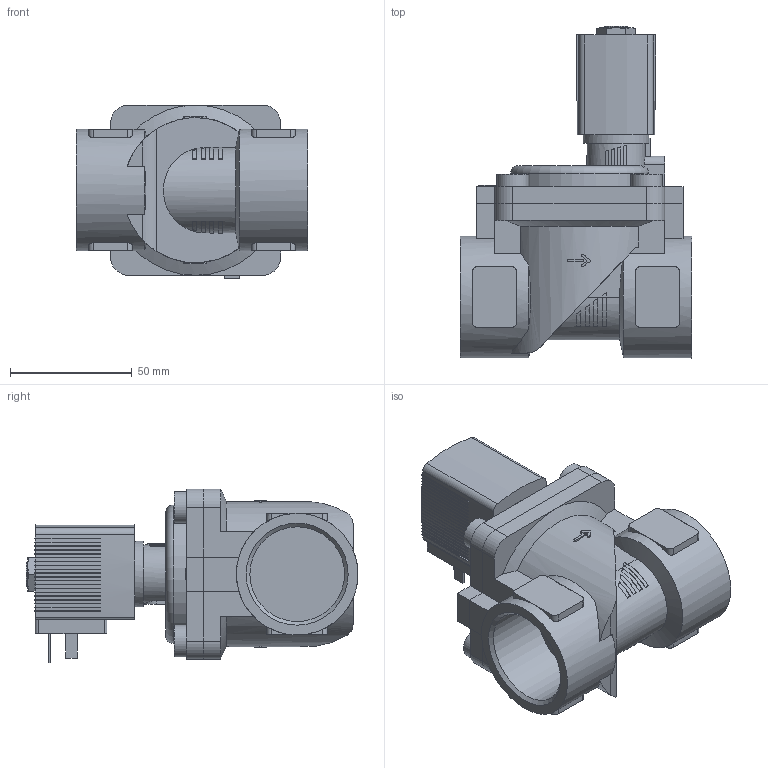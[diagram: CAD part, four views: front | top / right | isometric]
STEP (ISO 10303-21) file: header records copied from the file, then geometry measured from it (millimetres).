
FILE_DESCRIPTION(/* description */ ('STEP AP214'),/* implementation_level */ '2;1');
FILE_NAME(/* name */ '6281-241045-2_2-Way_Solenoid_Valve__Servo-assisted__General_Purpose',/* time_stamp */ '2024-06-06T21:55:36+02:00',/* author */ ('License CC BY-ND 4.0'),/* organization */ ('CADENAS'),/* preprocessor_version */ 'ST-DEVELOPER v19.3',/* originating_system */ 'PARTsolutions',/* authorisation */ ' ');
FILE_SCHEMA (('AUTOMOTIVE_DESIGN {1 0 10303 214 3 1 1}'));
Length unit declared in the file: millimetre
Products named in the file (4): 6281-241045-2/2-Way Solenoid Valve, Servo-assisted, General Purpose; 5281ev250MS2/2-Wege-Magnetventil mit Servomembran-Deckel   ; 6213-25G1_1/4MS-Gehaeuse-; AC10ex-5OO-Plan-Coil
Assembly tree (3 placements, depth 2):
  6281-241045-2/2-Way Solenoid Valve, Servo-assisted, General Purpose
    5281ev250MS2/2-Wege-Magnetventil mit Servomembran-Deckel   
    6213-25G1_1/4MS-Gehaeuse-
    AC10ex-5OO-Plan-Coil
Bounding box: 95 x 136.5 x 71.5 mm (x, y, z)
Volume: 309395.3 mm3; surface area: 61670 mm2
Topology: 3 solids, 3 shells, 531 faces, 1475 edges, 978 vertices
Faces by surface type: plane 432, cylinder 83, cone 15, torus 1
Full cylindrical faces by diameter (mm): 2.013 x1, 9.74 x1, 13 x4, 27 x1, 38.952 x2, 50 x2
Entity records: 19534 total; most frequent: CARTESIAN_POINT 3214, ORIENTED_EDGE 2904, DIRECTION 2765, EDGE_CURVE 1452, LINE 1077, VECTOR 1077, VERTEX_POINT 970, AXIS2_PLACEMENT_3D 844
